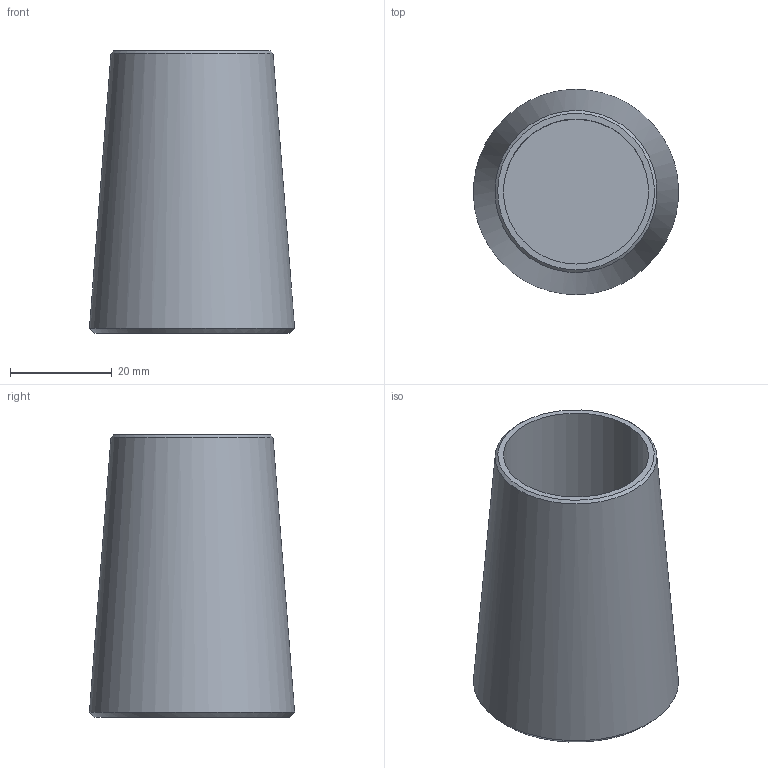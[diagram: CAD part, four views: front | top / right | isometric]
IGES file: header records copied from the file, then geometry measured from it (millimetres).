
Global section: file name: 520-027-KMU; native system: Autodesk Inventor 2016; preprocessor: unknown; author: BAYR; date: 20200618.122600; units: millimetre
Bounding box: 40.32 x 40.34 x 55.5 mm (x, y, z)
Volume: 30327.6 mm3; surface area: 12054.8 mm2
Topology: 1 solids, 1 shells, 7 faces, 14 edges, 10 vertices
Faces by surface type: bspline 7
